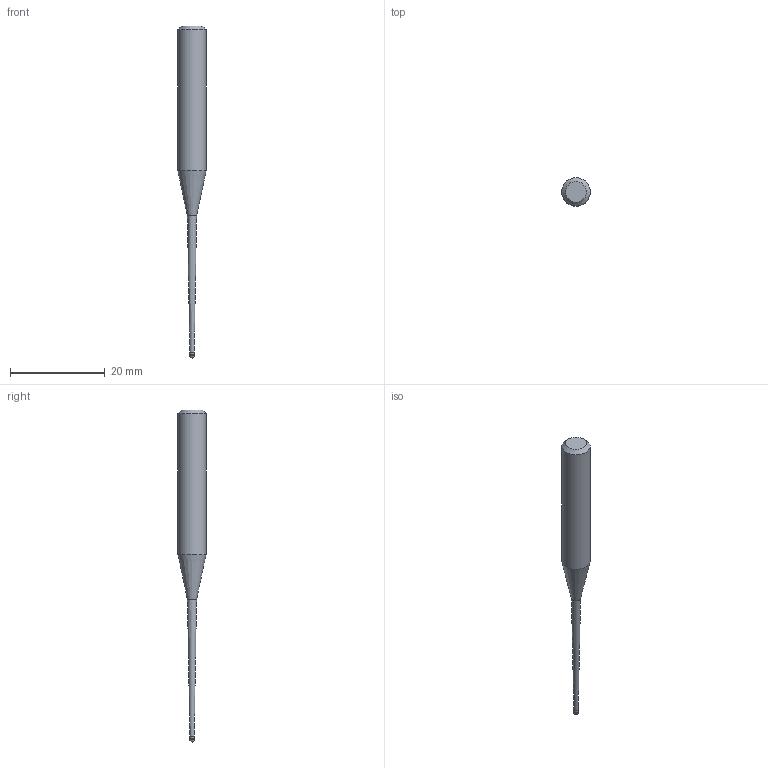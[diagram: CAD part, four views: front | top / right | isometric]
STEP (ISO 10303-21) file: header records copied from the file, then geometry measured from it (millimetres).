
FILE_DESCRIPTION((''),'2;1');
FILE_NAME('C:\Users\nsx150\AppData\Local\Temp\Mastercam 2021\E0ENTZRV18\TEMP.step','2021-09-02T09:56:06',(''),(''),'STEP Write','Mastercam 2021 ... CNC Software, Inc.','');
FILE_SCHEMA(('AUTOMOTIVE_DESIGN'));
Length unit declared in the file: millimetre
Products named in the file (1): None
Bounding box: 6 x 6 x 70 mm (x, y, z)
Volume: 1031.5 mm3; surface area: 847.3 mm2
Topology: 2 solids, 2 shells, 10 faces, 16 edges, 9 vertices
Faces by surface type: plane 3, cylinder 3, cone 3, sphere 1
Full cylindrical faces by diameter (mm): 0.905 x1, 1 x1, 6 x1
Entity records: 232 total; most frequent: DIRECTION 40, CARTESIAN_POINT 28, AXIS2_PLACEMENT_3D 20, ORIENTED_EDGE 16, EDGE_LOOP 16, STYLED_ITEM 13, ADVANCED_FACE 10, FACE_BOUND 9
